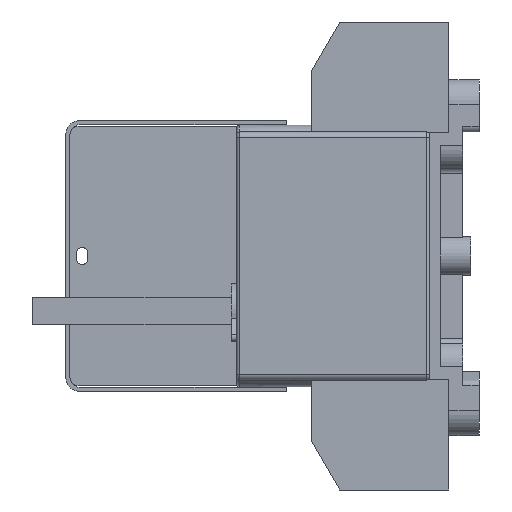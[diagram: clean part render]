
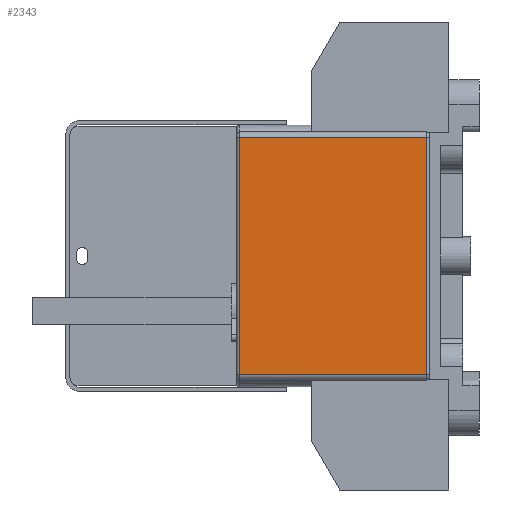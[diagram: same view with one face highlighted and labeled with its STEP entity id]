
A CAD part, left-side view. The second image highlights one B-rep face of the part: STEP entity #2343.
In plain terms, the highlighted planar face has unit normal (-1, 0, 0).
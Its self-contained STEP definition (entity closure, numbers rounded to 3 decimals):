
#2343=ADVANCED_FACE('',(#3786),#2952,.F.);
#2952=PLANE('',#20094);
#3786=FACE_OUTER_BOUND('',#4914,.T.);
#4914=EDGE_LOOP('',(#9881,#9882,#9883,#9884));
#9881=ORIENTED_EDGE('',*,*,#14619,.F.);
#9882=ORIENTED_EDGE('',*,*,#14604,.T.);
#9883=ORIENTED_EDGE('',*,*,#14620,.T.);
#9884=ORIENTED_EDGE('',*,*,#14306,.T.);
#11806=VERTEX_POINT('',#29995);
#11808=VERTEX_POINT('',#30001);
#11996=VERTEX_POINT('',#30689);
#12000=VERTEX_POINT('',#30721);
#14306=EDGE_CURVE('',#11806,#11808,#16377,.T.);
#14604=EDGE_CURVE('',#11996,#12000,#16530,.T.);
#14619=EDGE_CURVE('',#11996,#11808,#16537,.T.);
#14620=EDGE_CURVE('',#12000,#11806,#16538,.T.);
#16377=LINE('',#30002,#18294);
#16530=LINE('',#30722,#18447);
#16537=LINE('',#30775,#18454);
#16538=LINE('',#30777,#18455);
#18294=VECTOR('',#24553,1.);
#18447=VECTOR('',#25196,1.);
#18454=VECTOR('',#25223,1.);
#18455=VECTOR('',#25226,1.);
#20094=AXIS2_PLACEMENT_3D('',#30778,#25227,#25228);
#24553=DIRECTION('',(0.,0.,1.));
#25196=DIRECTION('',(0.,0.,-1.));
#25223=DIRECTION('',(0.,-1.,0.));
#25226=DIRECTION('',(0.,-1.,0.));
#25227=DIRECTION('',(1.,0.,0.));
#25228=DIRECTION('',(0.,0.,-1.));
#29995=CARTESIAN_POINT('',(-41.,1.,-43.));
#30001=CARTESIAN_POINT('',(-41.,1.,43.));
#30002=CARTESIAN_POINT('',(-41.,1.,-43.));
#30689=CARTESIAN_POINT('',(-41.,69.,43.));
#30721=CARTESIAN_POINT('',(-41.,69.,-43.));
#30722=CARTESIAN_POINT('',(-41.,69.,-43.));
#30775=CARTESIAN_POINT('',(-41.,35.,43.));
#30777=CARTESIAN_POINT('',(-41.,35.,-43.));
#30778=CARTESIAN_POINT('',(-41.,35.,-43.));
